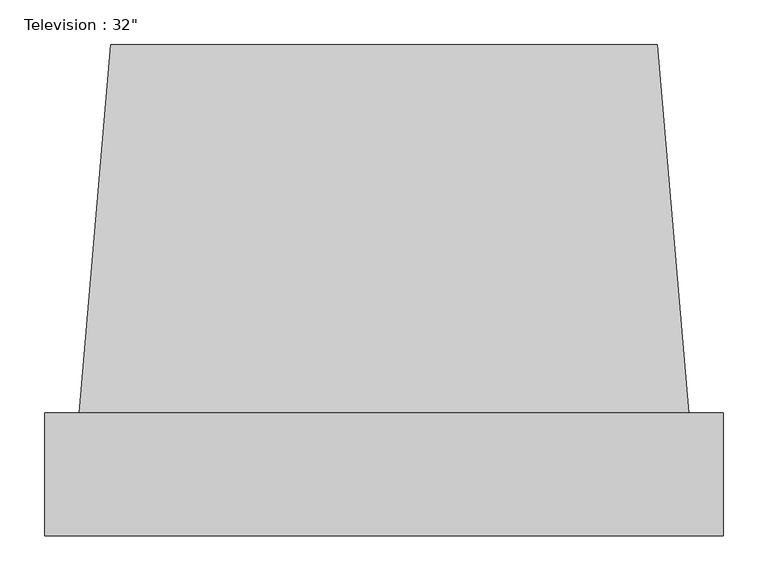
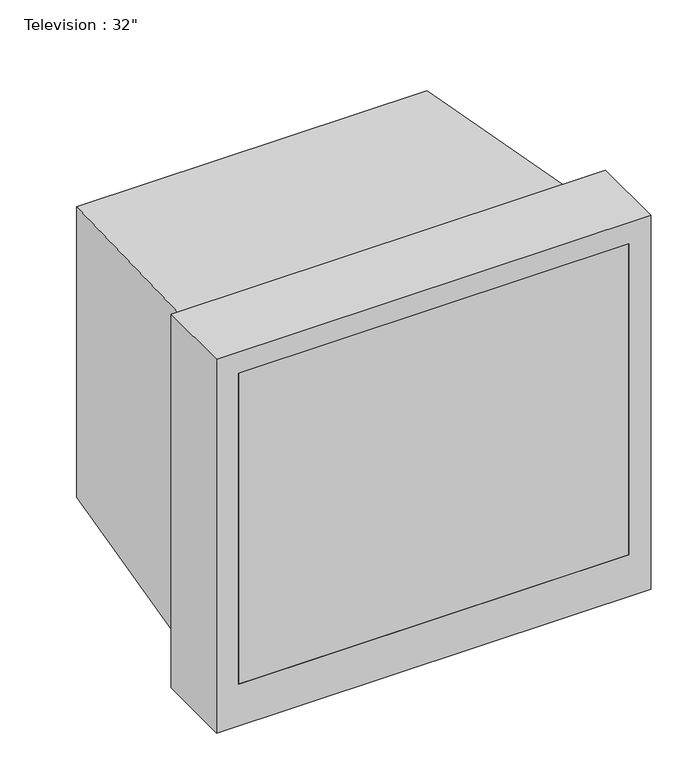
"""IFC4 building model written with IfcOpenShell, lengths in millimetres: furniture geometry."""

import ifcopenshell
import ifcopenshell.guid

model = None  # the IFC model being written
_history = None  # IfcOwnerHistory: only IFC2X3 demands one
_inside = {}  # id of a spatial element -> (the spatial element, [elements in it])
_under = {}  # id of a project, library or spatial element -> (it, [spatial elements below it])
_declared = {}  # id of a project -> (the project, [libraries it declares])
_typed = {}  # id of a type object -> (the type object, [elements of that type])
_made_of = {}  # id of a material, layer set ... -> (it, [elements and type objects made of it])


def new_model(schema):
    """Start an empty IFC model of exactly this schema.

    Asked for "IFC4X3", IfcOpenShell would pick the latest addendum, in which some entities
    have other attributes; the version numbers below select the first issue.
    IFC2X3 requires an IfcOwnerHistory on every rooted entity: one is made here for all.
    """
    global model, _history
    if schema == "IFC4X3":
        model = ifcopenshell.file(schema_version=(4, 3, 0, 0))
    else:
        model = ifcopenshell.file(schema=schema)
    _inside.clear()
    _under.clear()
    _declared.clear()
    _typed.clear()
    _made_of.clear()
    _history = None
    if model.schema == "IFC2X3":
        org = make("IfcOrganization", Name="unknown")
        user = make(
            "IfcPersonAndOrganization",
            ThePerson=make("IfcPerson", FamilyName="unknown"),
            TheOrganization=org,
        )
        app = make(
            "IfcApplication",
            ApplicationDeveloper=org,
            Version="unknown",
            ApplicationFullName="unknown",
            ApplicationIdentifier="unknown",
        )
        _history = make(
            "IfcOwnerHistory",
            OwningUser=user,
            OwningApplication=app,
            ChangeAction="ADDED",
            CreationDate=0,
        )
    return model


def make(cls, **values):
    """One entity of the class cls with the attributes given. An attribute that is None is left unset."""
    return model.create_entity(
        cls, **{name: value for name, value in values.items() if value is not None}
    )


def rooted(cls, **values):
    """An entity with a GlobalId (a new one), such as an element, a storey or a relation."""
    return make(cls, GlobalId=ifcopenshell.guid.new(), OwnerHistory=_history, **values)


def si_unit(unit_type, name, prefix=None):
    """IfcSIUnit, for example si_unit("LENGTHUNIT", "METRE", prefix="MILLI")."""
    return make("IfcSIUnit", UnitType=unit_type, Prefix=prefix, Name=name)


def assignment(units):
    """IfcUnitAssignment: the units of a project."""
    return None if units is None else make("IfcUnitAssignment", Units=units)


def point(xyz):
    """IfcCartesianPoint."""
    return None if xyz is None else make("IfcCartesianPoint", Coordinates=xyz)


def direction(xyz):
    """IfcDirection."""
    return None if xyz is None else make("IfcDirection", DirectionRatios=xyz)


def frame(location, z_axis=None, x_axis=None):
    """IfcAxis2Placement3D, a coordinate frame: its origin and axes. An axis left out is left unset."""
    return make(
        "IfcAxis2Placement3D",
        Location=point(location),
        Axis=direction(z_axis),
        RefDirection=direction(x_axis),
    )


def origin():
    """The frame at (0, 0, 0) with its axes left unset."""
    return frame((0.0, 0.0, 0.0))


def place(relative_to, where):
    """IfcLocalPlacement: puts the frame where relative to a parent placement (None: the world)."""
    return make(
        "IfcLocalPlacement", PlacementRelTo=relative_to, RelativePlacement=where
    )


def context(
    kind, dimensions, precision=None, world=None, true_north=None, identifier=None
):
    """IfcGeometricRepresentationContext, for example the 3D "Model" context."""
    return make(
        "IfcGeometricRepresentationContext",
        ContextIdentifier=identifier,
        ContextType=kind,
        CoordinateSpaceDimension=dimensions,
        Precision=precision,
        WorldCoordinateSystem=world,
        TrueNorth=true_north,
    )


def project(units=None, contexts=None):
    """IfcProject with its units and contexts."""
    return rooted(
        "IfcProject",
        Name="project",
        RepresentationContexts=contexts,
        UnitsInContext=assignment(units),
    )


def spatial(cls, under=None, at=None, **own):
    """A site, building, storey or space (cls), placed at a placement, below another one or the project."""
    s = rooted(cls, ObjectPlacement=at, **own)
    if under is not None:
        _under.setdefault(under.id(), (under, []))[1].append(s)
    return s


def polyline(points):
    """IfcPolyline through the points."""
    return make("IfcPolyline", Points=[point(p) for p in points])


def outline(outer, holes=None, kind="AREA"):
    """IfcArbitraryClosedProfileDef: a profile drawn as a closed curve; with holes, ...WithVoids."""
    if holes is None:
        return make("IfcArbitraryClosedProfileDef", ProfileType=kind, OuterCurve=outer)
    return make(
        "IfcArbitraryProfileDefWithVoids",
        ProfileType=kind,
        OuterCurve=outer,
        InnerCurves=holes,
    )


def extrude(swept, where, along, depth):
    """IfcExtrudedAreaSolid: the profile swept, set in the frame where, extruded along a direction by depth."""
    return make(
        "IfcExtrudedAreaSolid",
        SweptArea=swept,
        Position=where,
        ExtrudedDirection=direction(along),
        Depth=depth,
    )


def faces_of(points, faces, orient=None, outer=None):
    """IfcFace entities. A face is a list of loops; a loop is a list of indices into points, from 0.

    orient and outer hold one flag for each loop. By default every Orientation is true, the
    first loop of a face is its IfcFaceOuterBound and the others are IfcFaceBound.
    """
    made = []
    for i, loops in enumerate(faces):
        bounds = []
        for j, loop in enumerate(loops):
            is_outer = j == 0 if outer is None else outer[i][j]
            bounds.append(
                make(
                    "IfcFaceOuterBound" if is_outer else "IfcFaceBound",
                    Bound=make("IfcPolyLoop", Polygon=[points[k] for k in loop]),
                    Orientation=True if orient is None else orient[i][j],
                )
            )
        made.append(make("IfcFace", Bounds=bounds))
    return made


def faceted_brep(points, faces, orient=None, outer=None, voids=None):
    """IfcFacetedBrep: a solid bounded by flat faces; with voids (closed shells), ...WithVoids."""
    shared = [point(p) for p in points]
    hull = make("IfcClosedShell", CfsFaces=faces_of(shared, faces, orient, outer))
    if voids is None:
        return make("IfcFacetedBrep", Outer=hull)
    return make(
        "IfcFacetedBrepWithVoids",
        Outer=hull,
        Voids=[
            make(cls, CfsFaces=faces_of(shared, fs, o, b)) for cls, fs, o, b in voids
        ],
    )


def shape(context_of_items, identifier, shape_type, items):
    """IfcShapeRepresentation: the items that make up one representation, for example the "Body"."""
    return make(
        "IfcShapeRepresentation",
        ContextOfItems=context_of_items,
        RepresentationIdentifier=identifier,
        RepresentationType=shape_type,
        Items=items,
    )


def source(mapping_origin, context_of_items, identifier, shape_type, items):
    """IfcRepresentationMap: a shape defined once, which mapped items show again and again."""
    return make(
        "IfcRepresentationMap",
        MappingOrigin=mapping_origin,
        MappedRepresentation=shape(context_of_items, identifier, shape_type, items),
    )


def transform(
    local_origin,
    x_axis=None,
    y_axis=None,
    z_axis=None,
    scale=None,
    scale2=None,
    scale3=None,
    uniform=True,
):
    """IfcCartesianTransformationOperator3D, or its non-uniform kind. x_axis, y_axis, z_axis: its Axis1, 2, 3."""
    if uniform:
        return make(
            "IfcCartesianTransformationOperator3D",
            Axis1=direction(x_axis),
            Axis2=direction(y_axis),
            LocalOrigin=point(local_origin),
            Scale=scale,
            Axis3=direction(z_axis),
        )
    return make(
        "IfcCartesianTransformationOperator3DnonUniform",
        Axis1=direction(x_axis),
        Axis2=direction(y_axis),
        LocalOrigin=point(local_origin),
        Scale=scale,
        Axis3=direction(z_axis),
        Scale2=scale2,
        Scale3=scale3,
    )


def mapped(mapping_source, mapping_target):
    """IfcMappedItem: shows the shape of a source again, moved by a transform."""
    return make(
        "IfcMappedItem", MappingSource=mapping_source, MappingTarget=mapping_target
    )


def made_of(thing, what):
    """Note that an element or type object is made of a material, layer set ...; save() writes the relation."""
    if what is not None:
        _made_of.setdefault(what.id(), (what, []))[1].append(thing)
    return thing


def element(
    cls,
    number,
    at=None,
    inside=None,
    cuts=None,
    type_object=None,
    material=None,
    context=None,
    identifier="Body",
    shape_type=None,
    held_by="IfcProductDefinitionShape",
    body=None,
    shapes=None,
    **own,
):
    """One element of the class cls, such as IfcWall. Its Tag is "e" and its number.

    at: its placement. inside: the storey or other place that contains it. cuts: it is an
    opening in that element (IfcRelVoidsElement). A single representation is given by context,
    identifier, shape_type and body (its items); several are given by shapes. held_by: the class
    of the entity that holds the representations. save() writes the other relations.
    """
    e = rooted(cls, Tag="e%d" % number, ObjectPlacement=at, **own)
    if body is not None:
        shapes = [shape(context, identifier, shape_type, body)]
    if shapes is not None:
        e.Representation = make(held_by, Representations=shapes)
    if inside is not None:
        _inside.setdefault(inside.id(), (inside, []))[1].append(e)
    if cuts is not None:
        rooted(
            "IfcRelVoidsElement", RelatingBuildingElement=cuts, RelatedOpeningElement=e
        )
    if type_object is not None:
        _typed.setdefault(type_object.id(), (type_object, []))[1].append(e)
    return made_of(e, material)


def aggregate(whole, parts):
    """IfcRelAggregates: a whole, such as a stair, and the parts it consists of."""
    return rooted("IfcRelAggregates", RelatingObject=whole, RelatedObjects=parts)


def save(model, path):
    """Write the relations noted so far, then the file.

    IfcRelAggregates (storeys below a building ...), IfcRelContainedInSpatialStructure (elements
    in a storey), IfcRelDefinesByType, IfcRelAssociatesMaterial and IfcRelDeclares: one each for
    every whole, place, type object, material and project.
    """
    for whole, parts in _under.values():
        aggregate(whole, parts)
    for where, things in _inside.values():
        rooted(
            "IfcRelContainedInSpatialStructure",
            RelatedElements=things,
            RelatingStructure=where,
        )
    for kind, things in _typed.values():
        rooted("IfcRelDefinesByType", RelatedObjects=things, RelatingType=kind)
    for what, things in _made_of.values():
        rooted("IfcRelAssociatesMaterial", RelatedObjects=things, RelatingMaterial=what)
    for by, libraries in _declared.values():
        rooted("IfcRelDeclares", RelatingContext=by, RelatedDefinitions=libraries)
    model.write(path)


def furniture_099e81e9(model_context):
    return source(origin(), model_context, "Body", "SolidModel", [
        faceted_brep([(377.03125, -212.725, 685.8), (-377.03125, -212.725, 685.8), (-377.03125, -349.25, 685.8), (377.03125, -349.25, 685.8), (377.03125, -212.725, 0.0), (377.03125, -349.25, 0.0), (-377.03125, -349.25, 0.0), (-377.03125, -212.725, 0.0), (338.93125, -349.25, 646.90625), (338.93125, -349.25, 76.2), (-338.93125, -349.25, 76.2), (-338.93125, -349.25, 646.90625), (338.93125, -334.5220413, 646.90625), (-338.93125, -334.5220413, 646.90625), (-338.93125, -334.5220413, 76.2), (338.93125, -334.5220413, 76.2)], [[[0, 1, 2, 3]], [[4, 5, 6, 7]], [[1, 0, 4, 7]], [[2, 1, 7, 6]], [[3, 2, 6, 5], [8, 9, 10, 11]], [[0, 3, 5, 4]], [[12, 13, 14, 15]], [[12, 15, 9, 8]], [[15, 14, 10, 9]], [[14, 13, 11, 10]], [[13, 12, 8, 11]]]),
        extrude(outline(polyline([(338.93125, -349.25), (-338.93125, -349.25), (-338.93125, -334.5220413), (338.93125, -334.5220413), (338.93125, -349.25)])), frame((0.0, 0.0, 76.2), z_axis=(0.0, 0.0, 1.0), x_axis=(1.0, 0.0, 0.0)), (0.0, 0.0, 1.0), 570.70625),
        faceted_brep([(304.00625, 196.85, 608.80625), (304.00625, 196.85, 76.2), (-304.00625, 196.85, 76.2), (-304.00625, 196.85, 608.80625), (338.93125, -212.725, 646.90625), (-338.93125, -212.725, 646.90625), (-338.93125, -212.725, 38.1), (338.93125, -212.725, 38.1)], [[[0, 1, 2, 3]], [[4, 5, 6, 7]], [[1, 0, 4, 7]], [[2, 1, 7, 6]], [[3, 2, 6, 5]], [[0, 3, 5, 4]]]),
    ])


if __name__ == "__main__":
    model = new_model("IFC4")
    model_context = context("Model", 3, world=origin())
    ifc_project = project(units=[si_unit("LENGTHUNIT", "METRE", prefix="MILLI")], contexts=[model_context])
    site = spatial("IfcSite", under=ifc_project)
    building = spatial("IfcBuilding", under=site)
    placement = place(None, origin())
    furniture_shape = furniture_099e81e9(model_context)
    element("IfcFurniture", 1, ObjectType="Television : 32\"", at=placement, inside=building, context=model_context, shape_type="MappedRepresentation", body=[
        mapped(furniture_shape, transform((0.0, 0.0, 0.0), x_axis=(1.0, 0.0, 0.0), y_axis=(0.0, 1.0, 0.0), z_axis=(0.0, 0.0, 1.0))),
    ])
    save(model, "model.ifc")
